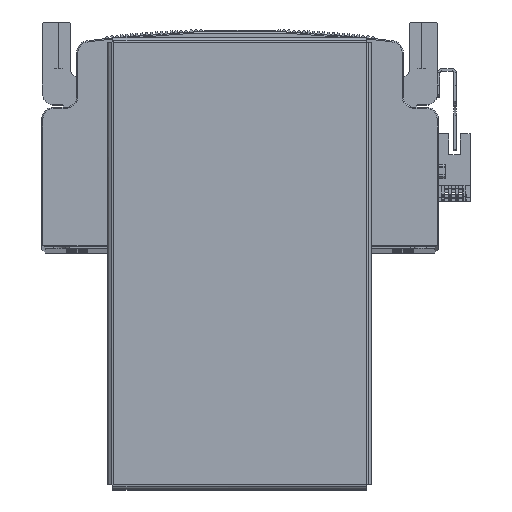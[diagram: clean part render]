
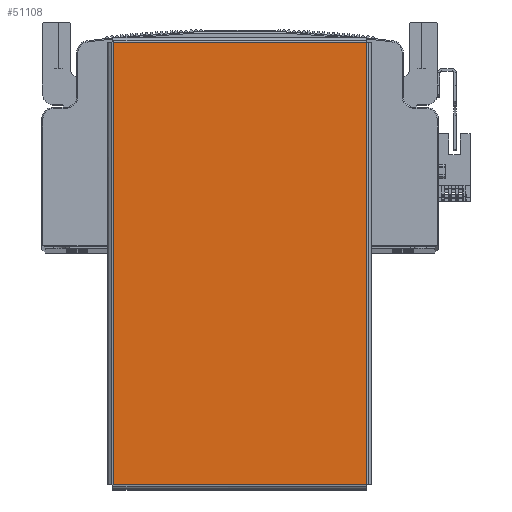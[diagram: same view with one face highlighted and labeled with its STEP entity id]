
A CAD part, top view. The second image highlights one B-rep face of the part: STEP entity #51108.
In plain terms, the highlighted planar face has unit normal (0, 0, 1) as drawn and (0, -1, 0) by its records, which use the part's own axes.
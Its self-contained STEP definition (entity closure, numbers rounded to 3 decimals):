
#239 = CARTESIAN_POINT ( 'NONE',  ( 94.763, -1.5, -54.363 ) ) ;
#258 = CARTESIAN_POINT ( 'NONE',  ( -94.763, -1.5, -54.363 ) ) ;
#268 = CARTESIAN_POINT ( 'NONE',  ( -94.763, -1.5, 54.363 ) ) ;
#270 = CARTESIAN_POINT ( 'NONE',  ( 94.763, -1.5, 54.363 ) ) ;
#803 = VERTEX_POINT ( 'NONE', #239 ) ;
#825 = VERTEX_POINT ( 'NONE', #258 ) ;
#831 = VERTEX_POINT ( 'NONE', #268 ) ;
#842 = VERTEX_POINT ( 'NONE', #270 ) ;
#6734 = EDGE_CURVE ( 'NONE', #803, #842, #52483, .T. ) ;
#6747 = EDGE_CURVE ( 'NONE', #831, #825, #52515, .T. ) ;
#6757 = EDGE_CURVE ( 'NONE', #825, #803, #52552, .T. ) ;
#6779 = EDGE_CURVE ( 'NONE', #842, #831, #52591, .T. ) ;
#7386 = EDGE_LOOP ( 'NONE', ( #50231, #50339, #50256, #50317 ) ) ;
#13197 = FACE_OUTER_BOUND ( 'NONE', #7386, .T. ) ;
#16708 = PLANE ( 'NONE',  #37403 ) ;
#16754 = CARTESIAN_POINT ( 'NONE',  ( 0., -1.5, 0. ) ) ;
#16772 = DIRECTION ( 'NONE',  ( 0., 1., 0. ) ) ;
#16773 = DIRECTION ( 'NONE',  ( 0., 0., 1. ) ) ;
#37403 = AXIS2_PLACEMENT_3D ( 'NONE', #16754, #16772, #16773 ) ;
#47980 = CARTESIAN_POINT ( 'NONE',  ( 94.763, -1.5, -54.393 ) ) ;
#47993 = DIRECTION ( 'NONE',  ( 0., 0., 1. ) ) ;
#48022 = CARTESIAN_POINT ( 'NONE',  ( -94.763, -1.5, 54.393 ) ) ;
#48024 = DIRECTION ( 'NONE',  ( 0., 0., -1. ) ) ;
#48129 = CARTESIAN_POINT ( 'NONE',  ( -94.793, -1.5, -54.363 ) ) ;
#48146 = DIRECTION ( 'NONE',  ( 1., 0., 0. ) ) ;
#48230 = CARTESIAN_POINT ( 'NONE',  ( 94.793, -1.5, 54.363 ) ) ;
#48249 = DIRECTION ( 'NONE',  ( -1., 0., 0. ) ) ;
#50231 = ORIENTED_EDGE ( 'NONE', *, *, #6779, .T. ) ;
#50256 = ORIENTED_EDGE ( 'NONE', *, *, #6757, .T. ) ;
#50317 = ORIENTED_EDGE ( 'NONE', *, *, #6734, .T. ) ;
#50339 = ORIENTED_EDGE ( 'NONE', *, *, #6747, .T. ) ;
#51108 = ADVANCED_FACE ( 'NONE', ( #13197 ), #16708, .F. ) ;
#52438 = VECTOR ( 'NONE', #47993, 1000. ) ;
#52483 = LINE ( 'NONE', #47980, #52438 ) ;
#52492 = VECTOR ( 'NONE', #48146, 1000. ) ;
#52515 = LINE ( 'NONE', #48022, #52535 ) ;
#52535 = VECTOR ( 'NONE', #48024, 1000. ) ;
#52552 = LINE ( 'NONE', #48129, #52492 ) ;
#52591 = LINE ( 'NONE', #48230, #52613 ) ;
#52613 = VECTOR ( 'NONE', #48249, 1000. ) ;
